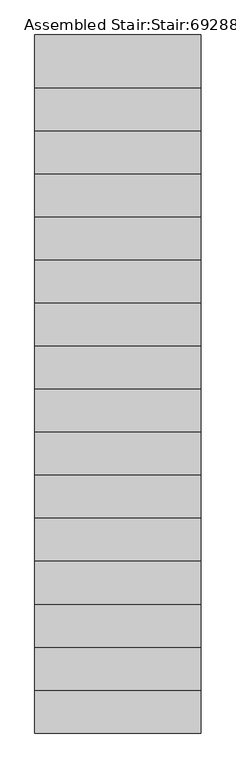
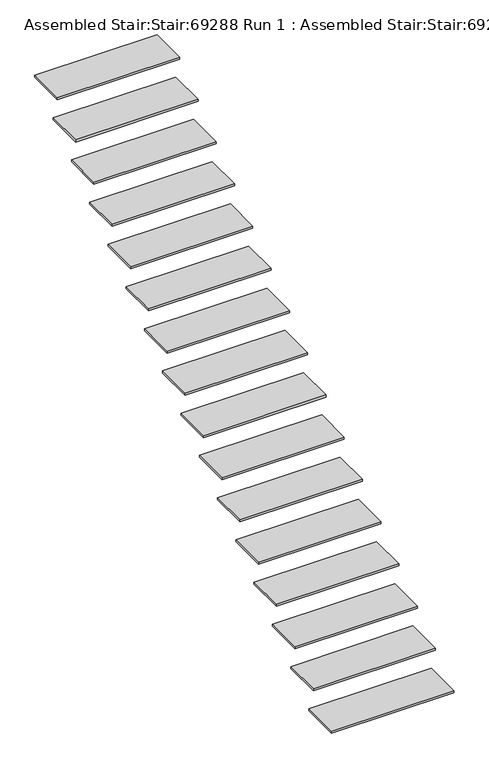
"""IFC4 building model written with IfcOpenShell, lengths in millimetres: stair geometry, Assembled Stair:Stair:69288 Run 1 : Assembled Stair:Stair:69288 Run 1."""

from ifc_helpers import new_model, si_unit, frame, origin, place, context, project, spatial, polyline, outline, extrude, source, transform, mapped, element, save


def assembled_stair_stair_69288_run_1_assembled_stair_stair_d5ccb160(model_context):
    return source(origin(), model_context, "Body", "SweptSolid", [
        extrude(outline(polyline([(29349.8089026, -22024.6322236), (29349.8089026, -21754.6322236), (30199.8089026, -21754.6322236), (30199.8089026, -22024.6322236), (29349.8089026, -22024.6322236)])), frame((0.0, 0.0, 2808.5294118), z_axis=(0.0, 0.0, 1.0), x_axis=(1.0, 0.0, 0.0)), (0.0, 0.0, 1.0), 15.0),
        extrude(outline(polyline([(29349.8089026, -22244.6322236), (29349.8089026, -21974.6322236), (30199.8089026, -21974.6322236), (30199.8089026, -22244.6322236), (29349.8089026, -22244.6322236)])), frame((0.0, 0.0, 2632.0588235), z_axis=(0.0, 0.0, 1.0), x_axis=(1.0, 0.0, 0.0)), (0.0, 0.0, 1.0), 15.0),
        extrude(outline(polyline([(29349.8089026, -22464.6322236), (29349.8089026, -22194.6322236), (30199.8089026, -22194.6322236), (30199.8089026, -22464.6322236), (29349.8089026, -22464.6322236)])), frame((0.0, 0.0, 2455.5882353), z_axis=(0.0, 0.0, 1.0), x_axis=(1.0, 0.0, 0.0)), (0.0, 0.0, 1.0), 15.0),
        extrude(outline(polyline([(29349.8089026, -22684.6322236), (29349.8089026, -22414.6322236), (30199.8089026, -22414.6322236), (30199.8089026, -22684.6322236), (29349.8089026, -22684.6322236)])), frame((0.0, 0.0, 2279.1176471), z_axis=(0.0, 0.0, 1.0), x_axis=(1.0, 0.0, 0.0)), (0.0, 0.0, 1.0), 15.0),
        extrude(outline(polyline([(29349.8089026, -22904.6322236), (29349.8089026, -22634.6322236), (30199.8089026, -22634.6322236), (30199.8089026, -22904.6322236), (29349.8089026, -22904.6322236)])), frame((0.0, 0.0, 2102.6470588), z_axis=(0.0, 0.0, 1.0), x_axis=(1.0, 0.0, 0.0)), (0.0, 0.0, 1.0), 15.0),
        extrude(outline(polyline([(29349.8089026, -23124.6322236), (29349.8089026, -22854.6322236), (30199.8089026, -22854.6322236), (30199.8089026, -23124.6322236), (29349.8089026, -23124.6322236)])), frame((0.0, 0.0, 1926.1764706), z_axis=(0.0, 0.0, 1.0), x_axis=(1.0, 0.0, 0.0)), (0.0, 0.0, 1.0), 15.0),
        extrude(outline(polyline([(29349.8089026, -23344.6322236), (29349.8089026, -23074.6322236), (30199.8089026, -23074.6322236), (30199.8089026, -23344.6322236), (29349.8089026, -23344.6322236)])), frame((0.0, 0.0, 1749.7058824), z_axis=(0.0, 0.0, 1.0), x_axis=(1.0, 0.0, 0.0)), (0.0, 0.0, 1.0), 15.0),
        extrude(outline(polyline([(29349.8089026, -23564.6322236), (29349.8089026, -23294.6322236), (30199.8089026, -23294.6322236), (30199.8089026, -23564.6322236), (29349.8089026, -23564.6322236)])), frame((0.0, 0.0, 1573.2352941), z_axis=(0.0, 0.0, 1.0), x_axis=(1.0, 0.0, 0.0)), (0.0, 0.0, 1.0), 15.0),
        extrude(outline(polyline([(29349.8089026, -23784.6322236), (29349.8089026, -23514.6322236), (30199.8089026, -23514.6322236), (30199.8089026, -23784.6322236), (29349.8089026, -23784.6322236)])), frame((0.0, 0.0, 1396.7647059), z_axis=(0.0, 0.0, 1.0), x_axis=(1.0, 0.0, 0.0)), (0.0, 0.0, 1.0), 15.0),
        extrude(outline(polyline([(29349.8089026, -24004.6322236), (29349.8089026, -23734.6322236), (30199.8089026, -23734.6322236), (30199.8089026, -24004.6322236), (29349.8089026, -24004.6322236)])), frame((0.0, 0.0, 1220.2941176), z_axis=(0.0, 0.0, 1.0), x_axis=(1.0, 0.0, 0.0)), (0.0, 0.0, 1.0), 15.0),
        extrude(outline(polyline([(29349.8089026, -24224.6322236), (29349.8089026, -23954.6322236), (30199.8089026, -23954.6322236), (30199.8089026, -24224.6322236), (29349.8089026, -24224.6322236)])), frame((0.0, 0.0, 1043.8235294), z_axis=(0.0, 0.0, 1.0), x_axis=(1.0, 0.0, 0.0)), (0.0, 0.0, 1.0), 15.0),
        extrude(outline(polyline([(29349.8089026, -24444.6322236), (29349.8089026, -24174.6322236), (30199.8089026, -24174.6322236), (30199.8089026, -24444.6322236), (29349.8089026, -24444.6322236)])), frame((0.0, 0.0, 867.3529412), z_axis=(0.0, 0.0, 1.0), x_axis=(1.0, 0.0, 0.0)), (0.0, 0.0, 1.0), 15.0),
        extrude(outline(polyline([(29349.8089026, -24664.6322236), (29349.8089026, -24394.6322236), (30199.8089026, -24394.6322236), (30199.8089026, -24664.6322236), (29349.8089026, -24664.6322236)])), frame((0.0, 0.0, 690.8823529), z_axis=(0.0, 0.0, 1.0), x_axis=(1.0, 0.0, 0.0)), (0.0, 0.0, 1.0), 15.0),
        extrude(outline(polyline([(29349.8089026, -24884.6322236), (29349.8089026, -24614.6322236), (30199.8089026, -24614.6322236), (30199.8089026, -24884.6322236), (29349.8089026, -24884.6322236)])), frame((0.0, 0.0, 514.4117647), z_axis=(0.0, 0.0, 1.0), x_axis=(1.0, 0.0, 0.0)), (0.0, 0.0, 1.0), 15.0),
        extrude(outline(polyline([(29349.8089026, -25104.6322236), (29349.8089026, -24834.6322236), (30199.8089026, -24834.6322236), (30199.8089026, -25104.6322236), (29349.8089026, -25104.6322236)])), frame((0.0, 0.0, 337.9411765), z_axis=(0.0, 0.0, 1.0), x_axis=(1.0, 0.0, 0.0)), (0.0, 0.0, 1.0), 15.0),
        extrude(outline(polyline([(29349.8089026, -25324.6322236), (29349.8089026, -25054.6322236), (30199.8089026, -25054.6322236), (30199.8089026, -25324.6322236), (29349.8089026, -25324.6322236)])), frame((0.0, 0.0, 161.4705882), z_axis=(0.0, 0.0, 1.0), x_axis=(1.0, 0.0, 0.0)), (0.0, 0.0, 1.0), 15.0),
    ])


if __name__ == "__main__":
    model = new_model("IFC4")
    model_context = context("Model", 3, world=origin())
    ifc_project = project(units=[si_unit("LENGTHUNIT", "METRE", prefix="MILLI")], contexts=[model_context])
    site = spatial("IfcSite", under=ifc_project)
    building = spatial("IfcBuilding", under=site)
    placement = place(None, origin())
    assembled_stair_stair_69288_run_1_assembled_stair_stair_shape = assembled_stair_stair_69288_run_1_assembled_stair_stair_d5ccb160(model_context)
    element("IfcStair", 1, ObjectType="Assembled Stair:Stair:69288 Run 1 : Assembled Stair:Stair:69288 Run 1", at=placement, inside=building, context=model_context, shape_type="MappedRepresentation", body=[
        mapped(assembled_stair_stair_69288_run_1_assembled_stair_stair_shape, transform((0.0, 0.0, 0.0), x_axis=(1.0, 0.0, 0.0), y_axis=(0.0, 1.0, 0.0), z_axis=(0.0, 0.0, 1.0))),
    ])
    save(model, "model.ifc")
